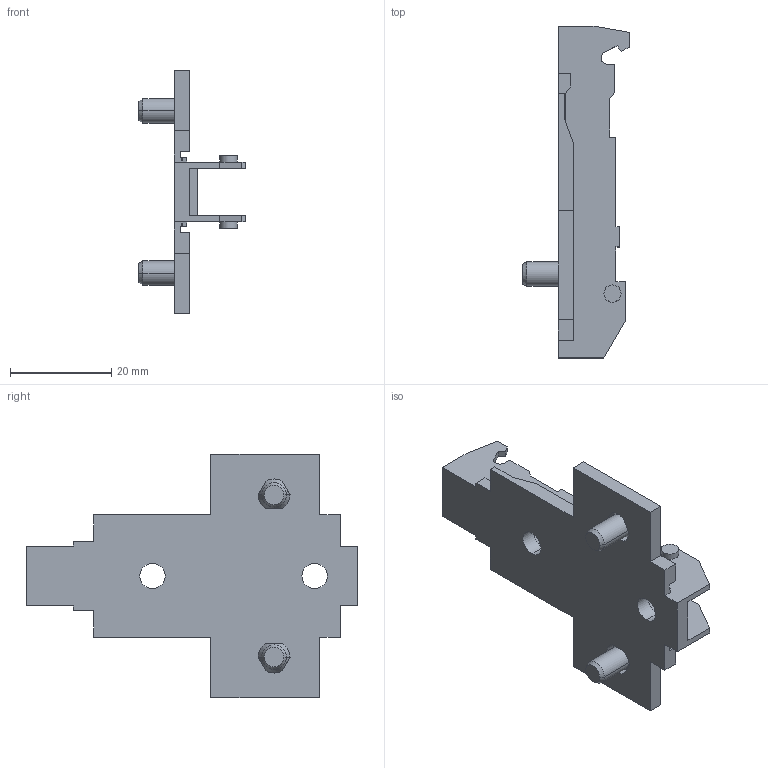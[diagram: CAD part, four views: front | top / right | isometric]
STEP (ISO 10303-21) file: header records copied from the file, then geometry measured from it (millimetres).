
FILE_DESCRIPTION (( 'STEP AP214' ), '1' );
FILE_NAME ('1D_Kreuzmontageplatte 28_32_Euro_vorgestellt 10_3,5.step', '2010-11-18T10:19:56', ( 'grass' ), ( '' ), 'SwSTEP 2.0', 'SolidWorks 2010', '' );
FILE_SCHEMA (( 'AUTOMOTIVE_DESIGN' ));
Length unit declared in the file: millimetre
Products named in the file (1): 1D_Kreuzmontageplatte 28_32_Euro_vorgestellt 10_3,5
Bounding box: 21 x 65.5 x 48 mm (x, y, z)
Volume: 6886.7 mm3; surface area: 7457.7 mm2
Topology: 1 solids, 1 shells, 138 faces, 390 edges, 254 vertices
Faces by surface type: plane 92, cylinder 34, cone 12
Entity records: 4550 total; most frequent: CARTESIAN_POINT 873, ORIENTED_EDGE 780, DIRECTION 730, EDGE_CURVE 390, VECTOR 292, LINE 292, VERTEX_POINT 254, AXIS2_PLACEMENT_3D 219
